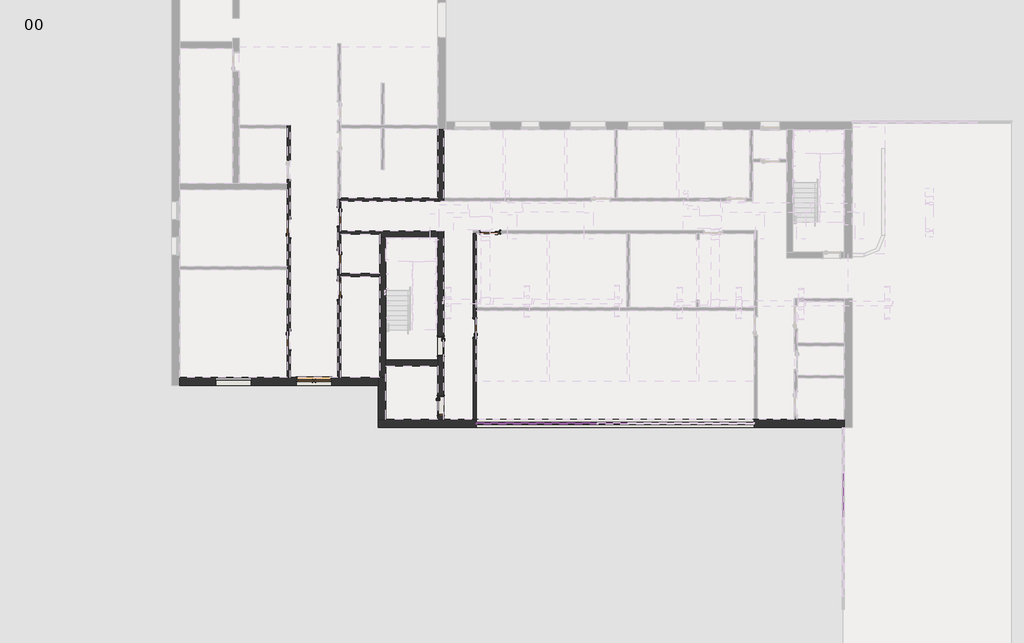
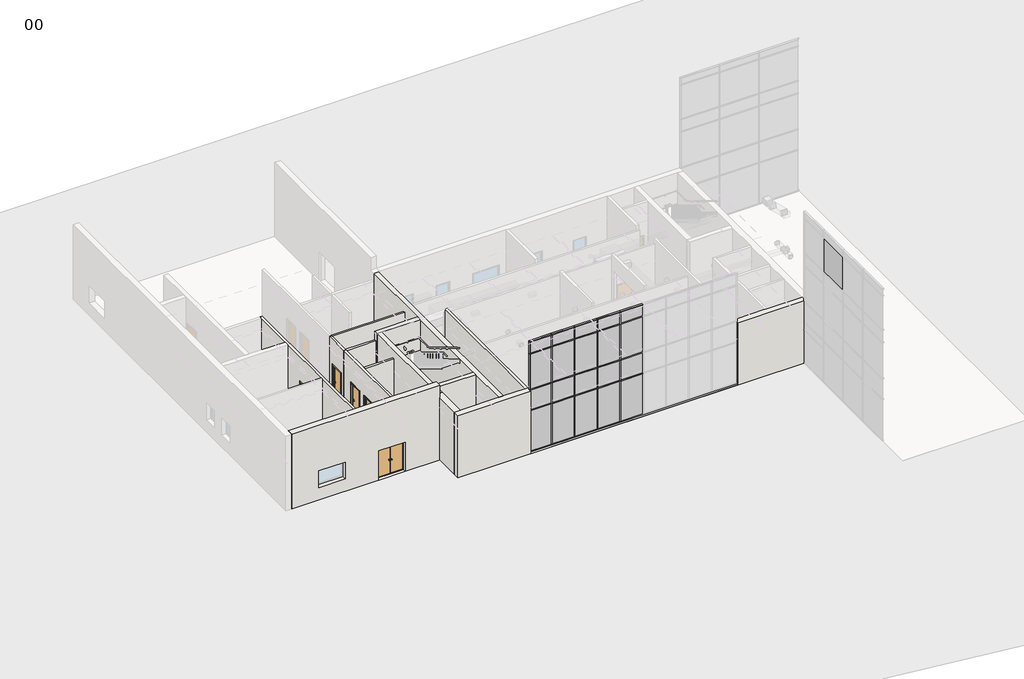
# One storey, part 2 of 12: 41 members, 21 plates, 14 walls, 10 doors.
"""IFC4 building model written with IfcOpenShell, lengths in millimetres."""

from ifc_helpers import new_model, si_unit, frame, origin, origin_with_axes, place, context, project, spatial, polyline, outline, extrude, faceted_brep, transform, mapped, element, save
from components import doors_intsgl_1_1010x2110mm_7920e6b8, doors_intsgl_1_1010x2110mm_12a6edaf, doors_intsgl_1_1010x2110mm_5517da8e, doors_intsgl_1_1010x2110mm_5eebe40c, doors_sco_extdbl_flush_1810x2110mm_3cdf6cdb, rectangular_mullion_curtainwallmullion_rectangular_generic_c971d07e, rectangular_mullion_curtainwallmullion_rectangular_generic_e6673756, rectangular_mullion_curtainwallmullion_rectangular_generic_63c9f2cf, rectangular_mullion_curtainwallmullion_rectangular_generic_d70bf6dd, rectangular_mullion_curtainwallmullion_rectangular_generic_654ac675, rectangular_mullion_curtainwallmullion_rectangular_generic_e7c47ca9, rectangular_mullion_curtainwallmullion_rectangular_generic_f3eef52e, rectangular_mullion_curtainwallmullion_rectangular_generic_c0600e94, rectangular_mullion_curtainwallmullion_rectangular_generic_0bcd7f07, rectangular_mullion_curtainwallmullion_rectangular_generic_3bdb59d8, rectangular_mullion_curtainwallmullion_rectangular_generic_0752d91b, rectangular_mullion_curtainwallmullion_rectangular_generic_141bc770, system_panel_curtainpanel_glazed_c42a0534, system_panel_curtainpanel_glazed_c680861d, system_panel_curtainpanel_glazed_7c054268, system_panel_curtainpanel_glazed_47e39832, system_panel_curtainpanel_glazed_d09689ee, system_panel_curtainpanel_solid_5b00d7df, system_panel_curtainpanel_solid_a154ba9f, system_panel_curtainpanel_solid_78233117, system_panel_curtainpanel_solid_a9b64b58

model = new_model("IFC4")

# Units and contexts
model_context = context("Model", 3, world=origin())
ifc_project = project(units=[si_unit("LENGTHUNIT", "METRE", prefix="MILLI")], contexts=[model_context])

# Site, building, storey
site = spatial("IfcSite", under=ifc_project)
building = spatial("IfcBuilding", under=site)
storey = spatial("IfcBuildingStorey", under=building, Name="00", Elevation=0.0)

# Doors
placement = place(None, origin())
doors_intsgl_1_1010x2110mm_shape = doors_intsgl_1_1010x2110mm_7920e6b8(model_context)
element("IfcDoor", 1, ObjectType="Doors_IntSgl_1 : 1010x2110mm", at=placement, inside=storey, context=model_context, shape_type="MappedRepresentation", body=[
    mapped(doors_intsgl_1_1010x2110mm_shape, transform((417435.3206883, -392289.0026386, 0.0), x_axis=(0.0, -1.0, 0.0), y_axis=(1.0, 0.0, 0.0), z_axis=(0.0, 0.0, 1.0))),
])
doors_intsgl_1_1010x2110mm_2_shape = doors_intsgl_1_1010x2110mm_12a6edaf(model_context)
element("IfcDoor", 2, ObjectType="Doors_IntSgl_1 : 1010x2110mm", at=placement, inside=storey, context=model_context, shape_type="MappedRepresentation", body=[
    mapped(doors_intsgl_1_1010x2110mm_2_shape, transform((417435.3206883, -386584.0026386, 0.0), x_axis=(0.0, 1.0, 0.0), y_axis=(-1.0, 0.0, 0.0), z_axis=(0.0, 0.0, 1.0))),
])
element("IfcDoor", 3, ObjectType="Doors_IntSgl_1 : 1010x2110mm", at=placement, inside=storey, context=model_context, shape_type="MappedRepresentation", body=[
    mapped(doors_intsgl_1_1010x2110mm_shape, transform((419987.3206883, -389744.0026386, 0.0), x_axis=(0.0, 1.0, 0.0), y_axis=(-1.0, 0.0, 0.0), z_axis=(0.0, 0.0, 1.0))),
])
element("IfcDoor", 4, ObjectType="Doors_IntSgl_1 : 1010x2110mm", at=placement, inside=storey, context=model_context, shape_type="MappedRepresentation", body=[
    mapped(doors_intsgl_1_1010x2110mm_shape, transform((426897.3206883, -391673.0026386, 0.0), x_axis=(0.0, 1.0, 0.0), y_axis=(-1.0, 0.0, 0.0), z_axis=(0.0, 0.0, 1.0))),
])
element("IfcDoor", 5, ObjectType="Doors_IntSgl_1 : 1010x2110mm", at=placement, inside=storey, context=model_context, shape_type="MappedRepresentation", body=[
    mapped(doors_intsgl_1_1010x2110mm_2_shape, transform((419987.3206883, -388184.0026386, 0.0), x_axis=(0.0, -1.0, 0.0), y_axis=(1.0, 0.0, 0.0), z_axis=(0.0, 0.0, 1.0))),
])
element("IfcDoor", 6, ObjectType="Doors_IntSgl_1 : 1010x2110mm", at=placement, inside=storey, context=model_context, shape_type="MappedRepresentation", body=[
    mapped(doors_intsgl_1_1010x2110mm_2_shape, transform((419987.3206883, -386006.5026386, 0.0), x_axis=(0.0, -1.0, 0.0), y_axis=(1.0, 0.0, 0.0), z_axis=(0.0, 0.0, 1.0))),
])
element("IfcDoor", 7, ObjectType="Doors_IntSgl_1 : 1010x2110mm", at=placement, inside=storey, context=model_context, shape_type="MappedRepresentation", body=[
    mapped(doors_intsgl_1_1010x2110mm_2_shape, transform((427677.3206883, -386774.0026386, 0.0), x_axis=(-1.0, 0.0, 0.0), y_axis=(0.0, -1.0, 0.0), z_axis=(0.0, 0.0, 1.0))),
])
doors_intsgl_1_1010x2110mm_3_shape = doors_intsgl_1_1010x2110mm_5517da8e(model_context)
element("IfcDoor", 8, ObjectType="Doors_IntSgl_1 : 1010x2110mm", at=placement, inside=storey, context=model_context, shape_type="MappedRepresentation", body=[
    mapped(doors_intsgl_1_1010x2110mm_3_shape, transform((425167.3206883, -392594.0026386, 0.0), x_axis=(0.0, -1.0, 0.0), y_axis=(1.0, 0.0, 0.0), z_axis=(0.0, 0.0, 1.0))),
])
doors_intsgl_1_1010x2110mm_4_shape = doors_intsgl_1_1010x2110mm_5eebe40c(model_context)
element("IfcDoor", 9, ObjectType="Doors_IntSgl_1 : 1010x2110mm", at=placement, inside=storey, context=model_context, shape_type="MappedRepresentation", body=[
    mapped(doors_intsgl_1_1010x2110mm_4_shape, transform((425167.3206883, -395623.0026386, 0.0), x_axis=(0.0, -1.0, 0.0), y_axis=(1.0, 0.0, 0.0), z_axis=(0.0, 0.0, 1.0))),
])
doors_sco_extdbl_flush_1810x2110mm_shape = doors_sco_extdbl_flush_1810x2110mm_3cdf6cdb(model_context)
element("IfcDoor", 10, ObjectType="Doors_SCO_ExtDbl_Flush : 1810x2110mm", at=placement, inside=storey, context=model_context, shape_type="MappedRepresentation", body=[
    mapped(doors_sco_extdbl_flush_1810x2110mm_shape, transform((418711.3206883, -394395.0026386, 0.0), x_axis=(1.0, 0.0, 0.0), y_axis=(0.0, 1.0, 0.0), z_axis=(0.0, 0.0, 1.0))),
])

# Members
rectangular_mullion_curtainwallmullion_rectangular_generic_shape = rectangular_mullion_curtainwallmullion_rectangular_generic_c971d07e(model_context)
element("IfcMember", 11, ObjectType="Rectangular Mullion : CurtainWallMullion_Rectangular_Generic", at=placement, inside=storey, context=model_context, shape_type="MappedRepresentation", body=[
    mapped(rectangular_mullion_curtainwallmullion_rectangular_generic_shape, transform((433166.7651328, -396529.0026386, 8000.0), x_axis=(0.0, 0.0, 1.0), y_axis=(0.0, 1.0, 0.0), z_axis=(-1.0, 0.0, 0.0))),
])
element("IfcMember", 12, ObjectType="Rectangular Mullion : CurtainWallMullion_Rectangular_Generic", at=placement, inside=storey, context=model_context, shape_type="MappedRepresentation", body=[
    mapped(rectangular_mullion_curtainwallmullion_rectangular_generic_shape, transform((431605.6540218, -396529.0026386, 8000.0), x_axis=(0.0, 0.0, 1.0), y_axis=(0.0, 1.0, 0.0), z_axis=(-1.0, 0.0, 0.0))),
])
element("IfcMember", 13, ObjectType="Rectangular Mullion : CurtainWallMullion_Rectangular_Generic", at=placement, inside=storey, context=model_context, shape_type="MappedRepresentation", body=[
    mapped(rectangular_mullion_curtainwallmullion_rectangular_generic_shape, transform((430044.5429107, -396529.0026386, 8000.0), x_axis=(0.0, 0.0, 1.0), y_axis=(0.0, 1.0, 0.0), z_axis=(-1.0, 0.0, 0.0))),
])
element("IfcMember", 14, ObjectType="Rectangular Mullion : CurtainWallMullion_Rectangular_Generic", at=placement, inside=storey, context=model_context, shape_type="MappedRepresentation", body=[
    mapped(rectangular_mullion_curtainwallmullion_rectangular_generic_shape, transform((428483.4317997, -396529.0026386, 8000.0), x_axis=(0.0, 0.0, 1.0), y_axis=(0.0, 1.0, 0.0), z_axis=(-1.0, 0.0, 0.0))),
])
element("IfcMember", 15, ObjectType="Rectangular Mullion : CurtainWallMullion_Rectangular_Generic", at=placement, inside=storey, context=model_context, shape_type="MappedRepresentation", body=[
    mapped(rectangular_mullion_curtainwallmullion_rectangular_generic_shape, transform((433166.7651328, -396529.0026386, 0.0), x_axis=(0.0, 0.0, -1.0), y_axis=(0.0, 1.0, 0.0), z_axis=(1.0, 0.0, 0.0))),
])
element("IfcMember", 16, ObjectType="Rectangular Mullion : CurtainWallMullion_Rectangular_Generic", at=placement, inside=storey, context=model_context, shape_type="MappedRepresentation", body=[
    mapped(rectangular_mullion_curtainwallmullion_rectangular_generic_shape, transform((431605.6540218, -396529.0026386, 0.0), x_axis=(0.0, 0.0, -1.0), y_axis=(0.0, 1.0, 0.0), z_axis=(1.0, 0.0, 0.0))),
])
element("IfcMember", 17, ObjectType="Rectangular Mullion : CurtainWallMullion_Rectangular_Generic", at=placement, inside=storey, context=model_context, shape_type="MappedRepresentation", body=[
    mapped(rectangular_mullion_curtainwallmullion_rectangular_generic_shape, transform((430044.5429107, -396529.0026386, 0.0), x_axis=(0.0, 0.0, -1.0), y_axis=(0.0, 1.0, 0.0), z_axis=(1.0, 0.0, 0.0))),
])
rectangular_mullion_curtainwallmullion_rectangular_generic_2_shape = rectangular_mullion_curtainwallmullion_rectangular_generic_e6673756(model_context)
element("IfcMember", 18, ObjectType="Rectangular Mullion : CurtainWallMullion_Rectangular_Generic", at=placement, inside=storey, context=model_context, shape_type="MappedRepresentation", body=[
    mapped(rectangular_mullion_curtainwallmullion_rectangular_generic_2_shape, transform((433191.7651328, -396529.0026386, 3000.0), x_axis=(0.0, 0.0, 1.0), y_axis=(0.0, 1.0, 0.0), z_axis=(-1.0, 0.0, 0.0))),
])
element("IfcMember", 19, ObjectType="Rectangular Mullion : CurtainWallMullion_Rectangular_Generic", at=placement, inside=storey, context=model_context, shape_type="MappedRepresentation", body=[
    mapped(rectangular_mullion_curtainwallmullion_rectangular_generic_2_shape, transform((431630.6540218, -396529.0026386, 3000.0), x_axis=(0.0, 0.0, 1.0), y_axis=(0.0, 1.0, 0.0), z_axis=(-1.0, 0.0, 0.0))),
])
element("IfcMember", 20, ObjectType="Rectangular Mullion : CurtainWallMullion_Rectangular_Generic", at=placement, inside=storey, context=model_context, shape_type="MappedRepresentation", body=[
    mapped(rectangular_mullion_curtainwallmullion_rectangular_generic_2_shape, transform((430069.5429107, -396529.0026386, 3000.0), x_axis=(0.0, 0.0, 1.0), y_axis=(0.0, 1.0, 0.0), z_axis=(-1.0, 0.0, 0.0))),
])
element("IfcMember", 21, ObjectType="Rectangular Mullion : CurtainWallMullion_Rectangular_Generic", at=placement, inside=storey, context=model_context, shape_type="MappedRepresentation", body=[
    mapped(rectangular_mullion_curtainwallmullion_rectangular_generic_2_shape, transform((428508.4317997, -396529.0026386, 3000.0), x_axis=(0.0, 0.0, 1.0), y_axis=(0.0, 1.0, 0.0), z_axis=(-1.0, 0.0, 0.0))),
])
element("IfcMember", 22, ObjectType="Rectangular Mullion : CurtainWallMullion_Rectangular_Generic", at=placement, inside=storey, context=model_context, shape_type="MappedRepresentation", body=[
    mapped(rectangular_mullion_curtainwallmullion_rectangular_generic_2_shape, transform((431630.6540218, -396529.0026386, 4500.0), x_axis=(0.0, 0.0, 1.0), y_axis=(0.0, 1.0, 0.0), z_axis=(-1.0, 0.0, 0.0))),
])
element("IfcMember", 23, ObjectType="Rectangular Mullion : CurtainWallMullion_Rectangular_Generic", at=placement, inside=storey, context=model_context, shape_type="MappedRepresentation", body=[
    mapped(rectangular_mullion_curtainwallmullion_rectangular_generic_2_shape, transform((430069.5429107, -396529.0026386, 4500.0), x_axis=(0.0, 0.0, 1.0), y_axis=(0.0, 1.0, 0.0), z_axis=(-1.0, 0.0, 0.0))),
])
element("IfcMember", 24, ObjectType="Rectangular Mullion : CurtainWallMullion_Rectangular_Generic", at=placement, inside=storey, context=model_context, shape_type="MappedRepresentation", body=[
    mapped(rectangular_mullion_curtainwallmullion_rectangular_generic_2_shape, transform((428508.4317997, -396529.0026386, 4500.0), x_axis=(0.0, 0.0, 1.0), y_axis=(0.0, 1.0, 0.0), z_axis=(-1.0, 0.0, 0.0))),
])
element("IfcMember", 25, ObjectType="Rectangular Mullion : CurtainWallMullion_Rectangular_Generic", at=placement, inside=storey, context=model_context, shape_type="MappedRepresentation", body=[
    mapped(rectangular_mullion_curtainwallmullion_rectangular_generic_2_shape, transform((431630.6540218, -396529.0026386, 7100.0), x_axis=(0.0, 0.0, 1.0), y_axis=(0.0, 1.0, 0.0), z_axis=(-1.0, 0.0, 0.0))),
])
element("IfcMember", 26, ObjectType="Rectangular Mullion : CurtainWallMullion_Rectangular_Generic", at=placement, inside=storey, context=model_context, shape_type="MappedRepresentation", body=[
    mapped(rectangular_mullion_curtainwallmullion_rectangular_generic_2_shape, transform((430069.5429107, -396529.0026386, 7100.0), x_axis=(0.0, 0.0, 1.0), y_axis=(0.0, 1.0, 0.0), z_axis=(-1.0, 0.0, 0.0))),
])
element("IfcMember", 27, ObjectType="Rectangular Mullion : CurtainWallMullion_Rectangular_Generic", at=placement, inside=storey, context=model_context, shape_type="MappedRepresentation", body=[
    mapped(rectangular_mullion_curtainwallmullion_rectangular_generic_2_shape, transform((428508.4317997, -396529.0026386, 7100.0), x_axis=(0.0, 0.0, 1.0), y_axis=(0.0, 1.0, 0.0), z_axis=(-1.0, 0.0, 0.0))),
])
rectangular_mullion_curtainwallmullion_rectangular_generic_3_shape = rectangular_mullion_curtainwallmullion_rectangular_generic_63c9f2cf(model_context)
element("IfcMember", 28, ObjectType="Rectangular Mullion : CurtainWallMullion_Rectangular_Generic", at=placement, inside=storey, context=model_context, shape_type="MappedRepresentation", body=[
    mapped(rectangular_mullion_curtainwallmullion_rectangular_generic_3_shape, transform((431605.6540218, -396529.0026386, 7100.0), x_axis=(-1.0, 0.0, 0.0), y_axis=(0.0, 1.0, 0.0), z_axis=(0.0, 0.0, -1.0))),
])
element("IfcMember", 29, ObjectType="Rectangular Mullion : CurtainWallMullion_Rectangular_Generic", at=placement, inside=storey, context=model_context, shape_type="MappedRepresentation", body=[
    mapped(rectangular_mullion_curtainwallmullion_rectangular_generic_3_shape, transform((430044.5429107, -396529.0026386, 7100.0), x_axis=(-1.0, 0.0, 0.0), y_axis=(0.0, 1.0, 0.0), z_axis=(0.0, 0.0, -1.0))),
])
element("IfcMember", 30, ObjectType="Rectangular Mullion : CurtainWallMullion_Rectangular_Generic", at=placement, inside=storey, context=model_context, shape_type="MappedRepresentation", body=[
    mapped(rectangular_mullion_curtainwallmullion_rectangular_generic_3_shape, transform((428483.4317997, -396529.0026386, 7100.0), x_axis=(-1.0, 0.0, 0.0), y_axis=(0.0, 1.0, 0.0), z_axis=(0.0, 0.0, -1.0))),
])
rectangular_mullion_curtainwallmullion_rectangular_generic_4_shape = rectangular_mullion_curtainwallmullion_rectangular_generic_d70bf6dd(model_context)
element("IfcMember", 31, ObjectType="Rectangular Mullion : CurtainWallMullion_Rectangular_Generic", at=placement, inside=storey, context=model_context, shape_type="MappedRepresentation", body=[
    mapped(rectangular_mullion_curtainwallmullion_rectangular_generic_4_shape, transform((426972.3206883, -396529.0026386, 7100.0), x_axis=(-1.0, 0.0, 0.0), y_axis=(0.0, 1.0, 0.0), z_axis=(0.0, 0.0, -1.0))),
])
rectangular_mullion_curtainwallmullion_rectangular_generic_5_shape = rectangular_mullion_curtainwallmullion_rectangular_generic_654ac675(model_context)
element("IfcMember", 32, ObjectType="Rectangular Mullion : CurtainWallMullion_Rectangular_Generic", at=placement, inside=storey, context=model_context, shape_type="MappedRepresentation", body=[
    mapped(rectangular_mullion_curtainwallmullion_rectangular_generic_5_shape, transform((433166.7651328, -396529.0026386, 4500.0), x_axis=(-1.0, 0.0, 0.0), y_axis=(0.0, 1.0, 0.0), z_axis=(0.0, 0.0, -1.0))),
])
element("IfcMember", 33, ObjectType="Rectangular Mullion : CurtainWallMullion_Rectangular_Generic", at=placement, inside=storey, context=model_context, shape_type="MappedRepresentation", body=[
    mapped(rectangular_mullion_curtainwallmullion_rectangular_generic_5_shape, transform((431605.6540218, -396529.0026386, 4500.0), x_axis=(-1.0, 0.0, 0.0), y_axis=(0.0, 1.0, 0.0), z_axis=(0.0, 0.0, -1.0))),
])
element("IfcMember", 34, ObjectType="Rectangular Mullion : CurtainWallMullion_Rectangular_Generic", at=placement, inside=storey, context=model_context, shape_type="MappedRepresentation", body=[
    mapped(rectangular_mullion_curtainwallmullion_rectangular_generic_5_shape, transform((430044.5429107, -396529.0026386, 4500.0), x_axis=(-1.0, 0.0, 0.0), y_axis=(0.0, 1.0, 0.0), z_axis=(0.0, 0.0, -1.0))),
])
element("IfcMember", 35, ObjectType="Rectangular Mullion : CurtainWallMullion_Rectangular_Generic", at=placement, inside=storey, context=model_context, shape_type="MappedRepresentation", body=[
    mapped(rectangular_mullion_curtainwallmullion_rectangular_generic_5_shape, transform((428483.4317997, -396529.0026386, 4500.0), x_axis=(-1.0, 0.0, 0.0), y_axis=(0.0, 1.0, 0.0), z_axis=(0.0, 0.0, -1.0))),
])
rectangular_mullion_curtainwallmullion_rectangular_generic_6_shape = rectangular_mullion_curtainwallmullion_rectangular_generic_e7c47ca9(model_context)
element("IfcMember", 36, ObjectType="Rectangular Mullion : CurtainWallMullion_Rectangular_Generic", at=placement, inside=storey, context=model_context, shape_type="MappedRepresentation", body=[
    mapped(rectangular_mullion_curtainwallmullion_rectangular_generic_6_shape, transform((426972.3206883, -396529.0026386, 4500.0), x_axis=(-1.0, 0.0, 0.0), y_axis=(0.0, 1.0, 0.0), z_axis=(0.0, 0.0, -1.0))),
])
rectangular_mullion_curtainwallmullion_rectangular_generic_7_shape = rectangular_mullion_curtainwallmullion_rectangular_generic_f3eef52e(model_context)
element("IfcMember", 37, ObjectType="Rectangular Mullion : CurtainWallMullion_Rectangular_Generic", at=placement, inside=storey, context=model_context, shape_type="MappedRepresentation", body=[
    mapped(rectangular_mullion_curtainwallmullion_rectangular_generic_7_shape, transform((433166.7651328, -396529.0026386, 50.0), x_axis=(-1.0, 0.0, 0.0), y_axis=(0.0, 1.0, 0.0), z_axis=(0.0, 0.0, -1.0))),
])
element("IfcMember", 38, ObjectType="Rectangular Mullion : CurtainWallMullion_Rectangular_Generic", at=placement, inside=storey, context=model_context, shape_type="MappedRepresentation", body=[
    mapped(rectangular_mullion_curtainwallmullion_rectangular_generic_7_shape, transform((431605.6540218, -396529.0026386, 50.0), x_axis=(-1.0, 0.0, 0.0), y_axis=(0.0, 1.0, 0.0), z_axis=(0.0, 0.0, -1.0))),
])
element("IfcMember", 39, ObjectType="Rectangular Mullion : CurtainWallMullion_Rectangular_Generic", at=placement, inside=storey, context=model_context, shape_type="MappedRepresentation", body=[
    mapped(rectangular_mullion_curtainwallmullion_rectangular_generic_7_shape, transform((430044.5429107, -396529.0026386, 50.0), x_axis=(-1.0, 0.0, 0.0), y_axis=(0.0, 1.0, 0.0), z_axis=(0.0, 0.0, -1.0))),
])
element("IfcMember", 40, ObjectType="Rectangular Mullion : CurtainWallMullion_Rectangular_Generic", at=placement, inside=storey, context=model_context, shape_type="MappedRepresentation", body=[
    mapped(rectangular_mullion_curtainwallmullion_rectangular_generic_7_shape, transform((428483.4317997, -396529.0026386, 50.0), x_axis=(-1.0, 0.0, 0.0), y_axis=(0.0, 1.0, 0.0), z_axis=(0.0, 0.0, -1.0))),
])
rectangular_mullion_curtainwallmullion_rectangular_generic_8_shape = rectangular_mullion_curtainwallmullion_rectangular_generic_c0600e94(model_context)
element("IfcMember", 41, ObjectType="Rectangular Mullion : CurtainWallMullion_Rectangular_Generic", at=placement, inside=storey, context=model_context, shape_type="MappedRepresentation", body=[
    mapped(rectangular_mullion_curtainwallmullion_rectangular_generic_8_shape, transform((433166.7651328, -396529.0026386, 3000.0), x_axis=(-1.0, 0.0, 0.0), y_axis=(0.0, 1.0, 0.0), z_axis=(0.0, 0.0, -1.0))),
])
element("IfcMember", 42, ObjectType="Rectangular Mullion : CurtainWallMullion_Rectangular_Generic", at=placement, inside=storey, context=model_context, shape_type="MappedRepresentation", body=[
    mapped(rectangular_mullion_curtainwallmullion_rectangular_generic_8_shape, transform((431605.6540218, -396529.0026386, 3000.0), x_axis=(-1.0, 0.0, 0.0), y_axis=(0.0, 1.0, 0.0), z_axis=(0.0, 0.0, -1.0))),
])
element("IfcMember", 43, ObjectType="Rectangular Mullion : CurtainWallMullion_Rectangular_Generic", at=placement, inside=storey, context=model_context, shape_type="MappedRepresentation", body=[
    mapped(rectangular_mullion_curtainwallmullion_rectangular_generic_8_shape, transform((430044.5429107, -396529.0026386, 3000.0), x_axis=(-1.0, 0.0, 0.0), y_axis=(0.0, 1.0, 0.0), z_axis=(0.0, 0.0, -1.0))),
])
element("IfcMember", 44, ObjectType="Rectangular Mullion : CurtainWallMullion_Rectangular_Generic", at=placement, inside=storey, context=model_context, shape_type="MappedRepresentation", body=[
    mapped(rectangular_mullion_curtainwallmullion_rectangular_generic_8_shape, transform((428483.4317997, -396529.0026386, 3000.0), x_axis=(-1.0, 0.0, 0.0), y_axis=(0.0, 1.0, 0.0), z_axis=(0.0, 0.0, -1.0))),
])
rectangular_mullion_curtainwallmullion_rectangular_generic_9_shape = rectangular_mullion_curtainwallmullion_rectangular_generic_0bcd7f07(model_context)
element("IfcMember", 45, ObjectType="Rectangular Mullion : CurtainWallMullion_Rectangular_Generic", at=placement, inside=storey, context=model_context, shape_type="MappedRepresentation", body=[
    mapped(rectangular_mullion_curtainwallmullion_rectangular_generic_9_shape, transform((426972.3206883, -396529.0026386, 50.0), x_axis=(-1.0, 0.0, 0.0), y_axis=(0.0, 1.0, 0.0), z_axis=(0.0, 0.0, -1.0))),
])
rectangular_mullion_curtainwallmullion_rectangular_generic_10_shape = rectangular_mullion_curtainwallmullion_rectangular_generic_3bdb59d8(model_context)
element("IfcMember", 46, ObjectType="Rectangular Mullion : CurtainWallMullion_Rectangular_Generic", at=placement, inside=storey, context=model_context, shape_type="MappedRepresentation", body=[
    mapped(rectangular_mullion_curtainwallmullion_rectangular_generic_10_shape, transform((426972.3206883, -396529.0026386, 3000.0), x_axis=(-1.0, 0.0, 0.0), y_axis=(0.0, 1.0, 0.0), z_axis=(0.0, 0.0, -1.0))),
])
rectangular_mullion_curtainwallmullion_rectangular_generic_11_shape = rectangular_mullion_curtainwallmullion_rectangular_generic_0752d91b(model_context)
element("IfcMember", 47, ObjectType="Rectangular Mullion : CurtainWallMullion_Rectangular_Generic", at=placement, inside=storey, context=model_context, shape_type="MappedRepresentation", body=[
    mapped(rectangular_mullion_curtainwallmullion_rectangular_generic_11_shape, transform((426972.3206883, -396529.0026386, 8000.0), x_axis=(0.0, 0.0, 1.0), y_axis=(0.0, 1.0, 0.0), z_axis=(-1.0, 0.0, 0.0))),
])
element("IfcMember", 48, ObjectType="Rectangular Mullion : CurtainWallMullion_Rectangular_Generic", at=placement, inside=storey, context=model_context, shape_type="MappedRepresentation", body=[
    mapped(rectangular_mullion_curtainwallmullion_rectangular_generic_11_shape, transform((428483.4317997, -396529.0026386, 0.0), x_axis=(0.0, 0.0, -1.0), y_axis=(0.0, 1.0, 0.0), z_axis=(1.0, 0.0, 0.0))),
])
rectangular_mullion_curtainwallmullion_rectangular_generic_12_shape = rectangular_mullion_curtainwallmullion_rectangular_generic_141bc770(model_context)
element("IfcMember", 49, ObjectType="Rectangular Mullion : CurtainWallMullion_Rectangular_Generic", at=placement, inside=storey, context=model_context, shape_type="MappedRepresentation", body=[
    mapped(rectangular_mullion_curtainwallmullion_rectangular_generic_12_shape, transform((427022.3206883, -396529.0026386, 3000.0), x_axis=(0.0, 0.0, 1.0), y_axis=(0.0, 1.0, 0.0), z_axis=(-1.0, 0.0, 0.0))),
])
element("IfcMember", 50, ObjectType="Rectangular Mullion : CurtainWallMullion_Rectangular_Generic", at=placement, inside=storey, context=model_context, shape_type="MappedRepresentation", body=[
    mapped(rectangular_mullion_curtainwallmullion_rectangular_generic_12_shape, transform((427022.3206883, -396529.0026386, 4500.0), x_axis=(0.0, 0.0, 1.0), y_axis=(0.0, 1.0, 0.0), z_axis=(-1.0, 0.0, 0.0))),
])
element("IfcMember", 51, ObjectType="Rectangular Mullion : CurtainWallMullion_Rectangular_Generic", at=placement, inside=storey, context=model_context, shape_type="MappedRepresentation", body=[
    mapped(rectangular_mullion_curtainwallmullion_rectangular_generic_12_shape, transform((427022.3206883, -396529.0026386, 7100.0), x_axis=(0.0, 0.0, 1.0), y_axis=(0.0, 1.0, 0.0), z_axis=(-1.0, 0.0, 0.0))),
])

# Plates
system_panel_curtainpanel_glazed_shape = system_panel_curtainpanel_glazed_c42a0534(model_context)
element("IfcPlate", 52, ObjectType="System Panel : CurtainPanel_Glazed", at=placement, inside=storey, context=model_context, shape_type="MappedRepresentation", body=[
    mapped(system_panel_curtainpanel_glazed_shape, transform((445668.3206883, -400195.8026387, 8025.0), x_axis=(0.0, 1.0, 0.0), y_axis=(-1.0, 0.0, 0.0), z_axis=(0.0, 0.0, 1.0))),
])
system_panel_curtainpanel_glazed_2_shape = system_panel_curtainpanel_glazed_c680861d(model_context)
element("IfcPlate", 53, ObjectType="System Panel : CurtainPanel_Glazed", at=placement, inside=storey, context=model_context, shape_type="MappedRepresentation", body=[
    mapped(system_panel_curtainpanel_glazed_2_shape, transform((433947.3206883, -396529.0026386, 4525.0), x_axis=(-1.0, 0.0, 0.0), y_axis=(0.0, -1.0, 0.0), z_axis=(0.0, 0.0, 1.0))),
])
element("IfcPlate", 54, ObjectType="System Panel : CurtainPanel_Glazed", at=placement, inside=storey, context=model_context, shape_type="MappedRepresentation", body=[
    mapped(system_panel_curtainpanel_glazed_2_shape, transform((432386.2095773, -396529.0026386, 4525.0), x_axis=(-1.0, 0.0, 0.0), y_axis=(0.0, -1.0, 0.0), z_axis=(0.0, 0.0, 1.0))),
])
element("IfcPlate", 55, ObjectType="System Panel : CurtainPanel_Glazed", at=placement, inside=storey, context=model_context, shape_type="MappedRepresentation", body=[
    mapped(system_panel_curtainpanel_glazed_2_shape, transform((430825.0984662, -396529.0026386, 4525.0), x_axis=(-1.0, 0.0, 0.0), y_axis=(0.0, -1.0, 0.0), z_axis=(0.0, 0.0, 1.0))),
])
element("IfcPlate", 56, ObjectType="System Panel : CurtainPanel_Glazed", at=placement, inside=storey, context=model_context, shape_type="MappedRepresentation", body=[
    mapped(system_panel_curtainpanel_glazed_2_shape, transform((429263.9873552, -396529.0026386, 4525.0), x_axis=(-1.0, 0.0, 0.0), y_axis=(0.0, -1.0, 0.0), z_axis=(0.0, 0.0, 1.0))),
])
system_panel_curtainpanel_glazed_3_shape = system_panel_curtainpanel_glazed_7c054268(model_context)
element("IfcPlate", 57, ObjectType="System Panel : CurtainPanel_Glazed", at=placement, inside=storey, context=model_context, shape_type="MappedRepresentation", body=[
    mapped(system_panel_curtainpanel_glazed_3_shape, transform((433947.3206883, -396529.0026386, 50.0), x_axis=(-1.0, 0.0, 0.0), y_axis=(0.0, -1.0, 0.0), z_axis=(0.0, 0.0, 1.0))),
])
element("IfcPlate", 58, ObjectType="System Panel : CurtainPanel_Glazed", at=placement, inside=storey, context=model_context, shape_type="MappedRepresentation", body=[
    mapped(system_panel_curtainpanel_glazed_3_shape, transform((432386.2095773, -396529.0026386, 50.0), x_axis=(-1.0, 0.0, 0.0), y_axis=(0.0, -1.0, 0.0), z_axis=(0.0, 0.0, 1.0))),
])
element("IfcPlate", 59, ObjectType="System Panel : CurtainPanel_Glazed", at=placement, inside=storey, context=model_context, shape_type="MappedRepresentation", body=[
    mapped(system_panel_curtainpanel_glazed_3_shape, transform((430825.0984662, -396529.0026386, 50.0), x_axis=(-1.0, 0.0, 0.0), y_axis=(0.0, -1.0, 0.0), z_axis=(0.0, 0.0, 1.0))),
])
element("IfcPlate", 60, ObjectType="System Panel : CurtainPanel_Glazed", at=placement, inside=storey, context=model_context, shape_type="MappedRepresentation", body=[
    mapped(system_panel_curtainpanel_glazed_3_shape, transform((429263.9873552, -396529.0026386, 50.0), x_axis=(-1.0, 0.0, 0.0), y_axis=(0.0, -1.0, 0.0), z_axis=(0.0, 0.0, 1.0))),
])
system_panel_curtainpanel_glazed_4_shape = system_panel_curtainpanel_glazed_47e39832(model_context)
element("IfcPlate", 61, ObjectType="System Panel : CurtainPanel_Glazed", at=placement, inside=storey, context=model_context, shape_type="MappedRepresentation", body=[
    mapped(system_panel_curtainpanel_glazed_4_shape, transform((427740.376244, -396529.0026386, 50.0), x_axis=(-1.0, 0.0, 0.0), y_axis=(0.0, -1.0, 0.0), z_axis=(0.0, 0.0, 1.0))),
])
system_panel_curtainpanel_glazed_5_shape = system_panel_curtainpanel_glazed_d09689ee(model_context)
element("IfcPlate", 62, ObjectType="System Panel : CurtainPanel_Glazed", at=placement, inside=storey, context=model_context, shape_type="MappedRepresentation", body=[
    mapped(system_panel_curtainpanel_glazed_5_shape, transform((427740.376244, -396529.0026386, 4525.0), x_axis=(-1.0, 0.0, 0.0), y_axis=(0.0, -1.0, 0.0), z_axis=(0.0, 0.0, 1.0))),
])
system_panel_curtainpanel_solid_shape = system_panel_curtainpanel_solid_5b00d7df(model_context)
element("IfcPlate", 63, ObjectType="System Panel : CurtainPanel_Solid", at=placement, inside=storey, context=model_context, shape_type="MappedRepresentation", body=[
    mapped(system_panel_curtainpanel_solid_shape, transform((433947.3206883, -396529.0026386, 7125.0), x_axis=(-1.0, 0.0, 0.0), y_axis=(0.0, -1.0, 0.0), z_axis=(0.0, 0.0, 1.0))),
])
element("IfcPlate", 64, ObjectType="System Panel : CurtainPanel_Solid", at=placement, inside=storey, context=model_context, shape_type="MappedRepresentation", body=[
    mapped(system_panel_curtainpanel_solid_shape, transform((432386.2095773, -396529.0026386, 7125.0), x_axis=(-1.0, 0.0, 0.0), y_axis=(0.0, -1.0, 0.0), z_axis=(0.0, 0.0, 1.0))),
])
element("IfcPlate", 65, ObjectType="System Panel : CurtainPanel_Solid", at=placement, inside=storey, context=model_context, shape_type="MappedRepresentation", body=[
    mapped(system_panel_curtainpanel_solid_shape, transform((430825.0984662, -396529.0026386, 7125.0), x_axis=(-1.0, 0.0, 0.0), y_axis=(0.0, -1.0, 0.0), z_axis=(0.0, 0.0, 1.0))),
])
element("IfcPlate", 66, ObjectType="System Panel : CurtainPanel_Solid", at=placement, inside=storey, context=model_context, shape_type="MappedRepresentation", body=[
    mapped(system_panel_curtainpanel_solid_shape, transform((429263.9873552, -396529.0026386, 7125.0), x_axis=(-1.0, 0.0, 0.0), y_axis=(0.0, -1.0, 0.0), z_axis=(0.0, 0.0, 1.0))),
])
system_panel_curtainpanel_solid_2_shape = system_panel_curtainpanel_solid_a154ba9f(model_context)
element("IfcPlate", 67, ObjectType="System Panel : CurtainPanel_Solid", at=placement, inside=storey, context=model_context, shape_type="MappedRepresentation", body=[
    mapped(system_panel_curtainpanel_solid_2_shape, transform((433947.3206883, -396529.0026386, 3025.0), x_axis=(-1.0, 0.0, 0.0), y_axis=(0.0, -1.0, 0.0), z_axis=(0.0, 0.0, 1.0))),
])
element("IfcPlate", 68, ObjectType="System Panel : CurtainPanel_Solid", at=placement, inside=storey, context=model_context, shape_type="MappedRepresentation", body=[
    mapped(system_panel_curtainpanel_solid_2_shape, transform((432386.2095773, -396529.0026386, 3025.0), x_axis=(-1.0, 0.0, 0.0), y_axis=(0.0, -1.0, 0.0), z_axis=(0.0, 0.0, 1.0))),
])
element("IfcPlate", 69, ObjectType="System Panel : CurtainPanel_Solid", at=placement, inside=storey, context=model_context, shape_type="MappedRepresentation", body=[
    mapped(system_panel_curtainpanel_solid_2_shape, transform((430825.0984662, -396529.0026386, 3025.0), x_axis=(-1.0, 0.0, 0.0), y_axis=(0.0, -1.0, 0.0), z_axis=(0.0, 0.0, 1.0))),
])
element("IfcPlate", 70, ObjectType="System Panel : CurtainPanel_Solid", at=placement, inside=storey, context=model_context, shape_type="MappedRepresentation", body=[
    mapped(system_panel_curtainpanel_solid_2_shape, transform((429263.9873552, -396529.0026386, 3025.0), x_axis=(-1.0, 0.0, 0.0), y_axis=(0.0, -1.0, 0.0), z_axis=(0.0, 0.0, 1.0))),
])
system_panel_curtainpanel_solid_3_shape = system_panel_curtainpanel_solid_78233117(model_context)
element("IfcPlate", 71, ObjectType="System Panel : CurtainPanel_Solid", at=placement, inside=storey, context=model_context, shape_type="MappedRepresentation", body=[
    mapped(system_panel_curtainpanel_solid_3_shape, transform((427740.376244, -396529.0026386, 3025.0), x_axis=(-1.0, 0.0, 0.0), y_axis=(0.0, -1.0, 0.0), z_axis=(0.0, 0.0, 1.0))),
])
system_panel_curtainpanel_solid_4_shape = system_panel_curtainpanel_solid_a9b64b58(model_context)
element("IfcPlate", 72, ObjectType="System Panel : CurtainPanel_Solid", at=placement, inside=storey, context=model_context, shape_type="MappedRepresentation", body=[
    mapped(system_panel_curtainpanel_solid_4_shape, transform((427740.376244, -396529.0026386, 7125.0), x_axis=(-1.0, 0.0, 0.0), y_axis=(0.0, -1.0, 0.0), z_axis=(0.0, 0.0, 1.0))),
])

# Walls
element("IfcWall", 73, ObjectType="Wall_Exterior_WSUK", at=placement, inside=storey, context=model_context, shape_type="Brep", body=[
    faceted_brep([(445738.3206883, -396328.0026386, -1000.0), (425322.3206883, -396328.0026386, -1000.0), (425012.3206883, -396328.0026386, -1000.0), (422376.3206883, -396328.0026386, -1000.0), (421974.3206883, -396328.0026386, -1000.0), (421974.3206883, -396328.0026386, 4500.0), (422376.3206883, -396328.0026386, 4500.0), (425012.3206883, -396328.0026386, 4500.0), (425322.3206883, -396328.0026386, 4500.0), (426822.3206883, -396328.0026386, 4500.0), (426972.3206883, -396328.0026386, 4500.0), (426972.3206883, -396328.0026386, 0.0), (441142.3206883, -396328.0026386, 0.0), (441142.3206883, -396328.0026386, 4500.0), (441292.3206883, -396328.0026386, 4500.0), (443188.3206883, -396328.0026386, 4500.0), (443338.3206883, -396328.0026386, 4500.0), (445738.3206883, -396328.0026386, 4500.0), (421974.3206883, -396730.0026386, -1000.0), (445738.3206883, -396730.0026386, -1000.0), (445738.3206883, -396730.0026386, 4500.0), (441142.3206883, -396730.0026386, 4500.0), (441142.3206883, -396730.0026386, 0.0), (426972.3206883, -396730.0026386, 0.0), (426972.3206883, -396730.0026386, 4500.0), (421974.3206883, -396730.0026386, 4500.0)], [[[0, 1, 2, 3, 4, 5, 6, 7, 8, 9, 10, 11, 12, 13, 14, 15, 16, 17]], [[18, 19, 20, 21, 22, 23, 24, 25]], [[4, 3, 2, 1, 0, 19, 18]], [[5, 25, 24, 10, 9, 8, 7, 6]], [[20, 17, 16, 15, 14, 13, 21]], [[5, 4, 18, 25]], [[17, 20, 19, 0]], [[12, 22, 21, 13]], [[23, 11, 10, 24]], [[22, 12, 11, 23]]]),
])
element("IfcWall", 74, ObjectType="Wall_Exterior_WSUK", at=placement, inside=storey, context=model_context, shape_type="Brep", body=[
    faceted_brep([(422376.3206883, -396328.0026386, -1000.0), (422376.3206883, -394194.0026386, -1000.0), (422376.3206883, -394194.0026386, 4500.0), (422376.3206883, -396328.0026386, 4500.0), (421974.3206883, -396328.0026386, -1000.0), (421974.3206883, -396328.0026386, 4500.0), (421974.3206883, -394194.0026386, 4500.0), (421974.3206883, -394194.0026386, -1000.0), (421974.3206883, -394596.0026386, -1000.0), (422066.3206883, -394194.0026386, -1000.0), (422066.3206883, -394194.0026386, 4500.0)], [[[0, 1, 2, 3]], [[4, 5, 6, 7, 8]], [[1, 0, 4, 8, 7, 9]], [[3, 2, 10, 6, 5]], [[0, 3, 5, 4]], [[2, 1, 9, 7, 6, 10]]]),
])
element("IfcWall", 75, ObjectType="Wall_Exterior_WSUK", at=placement, inside=storey, context=model_context, shape_type="Brep", body=[
    faceted_brep([(421974.3206883, -394194.0026386, -1000.0), (411860.3206883, -394194.0026386, -1000.0), (411860.3206883, -394194.0026386, 5400.0), (421974.3206883, -394194.0026386, 5400.0), (421974.3206883, -394194.0026386, 4500.0), (417831.3206883, -394194.0026386, 0.0), (419591.3206883, -394194.0026386, 0.0), (419591.3206883, -394194.0026386, 2110.0), (417831.3206883, -394194.0026386, 2110.0), (413705.3206883, -394194.0026386, 2110.0), (413705.3206883, -394194.0026386, 900.0), (415515.3206883, -394194.0026386, 900.0), (415515.3206883, -394194.0026386, 2110.0), (411860.3206883, -394596.0026386, -1000.0), (421974.3206883, -394596.0026386, -1000.0), (421974.3206883, -394596.0026386, 5400.0), (411860.3206883, -394596.0026386, 5400.0), (419616.3206883, -394596.0026386, 2110.0), (419616.3206883, -394596.0026386, 0.0), (417806.3206883, -394596.0026386, 0.0), (417806.3206883, -394596.0026386, 2110.0), (413705.3206883, -394596.0026386, 2110.0), (415515.3206883, -394596.0026386, 2110.0), (415515.3206883, -394596.0026386, 900.0), (413705.3206883, -394596.0026386, 900.0), (417806.3206883, -394296.5026386, 2110.0), (417806.3206883, -394296.5026386, 0.0), (417831.3206883, -394296.5026386, 0.0), (417831.3206883, -394296.5026386, 2110.0), (419616.3206883, -394296.5026386, 0.0), (419616.3206883, -394296.5026386, 2110.0), (419591.3206883, -394296.5026386, 2110.0), (419591.3206883, -394296.5026386, 0.0)], [[[0, 1, 2, 3, 4], [5, 6, 7, 8], [9, 10, 11, 12]], [[13, 14, 15, 16], [17, 18, 19, 20], [21, 22, 23, 24]], [[1, 0, 14, 13]], [[3, 2, 16, 15]], [[25, 26, 27, 28]], [[29, 30, 31, 32]], [[30, 29, 18, 17]], [[27, 26, 19, 18, 29, 32, 6, 5]], [[26, 25, 20, 19]], [[25, 28, 8, 7, 31, 30, 17, 20]], [[28, 27, 5, 8]], [[32, 31, 7, 6]], [[10, 9, 21, 24]], [[11, 10, 24, 23]], [[12, 11, 23, 22]], [[9, 12, 22, 21]], [[14, 0, 4, 3, 15]], [[2, 1, 13, 16]]]),
])
element("IfcWall", 76, ObjectType="Wall_Exterior_WSUK 2hr", at=placement, inside=storey, context=model_context, shape_type="Brep", body=[
    faceted_brep([(425012.3206883, -381550.0026386, -1000.0), (425012.3206883, -386739.0026386, -1000.0), (425012.3206883, -387049.0026386, -1000.0), (425012.3206883, -393299.0026386, -1000.0), (425012.3206883, -393609.0026386, -1000.0), (425012.3206883, -396328.0026386, -1000.0), (425012.3206883, -396328.0026386, 4500.0), (425012.3206883, -393609.0026386, 4500.0), (425012.3206883, -393299.0026386, 4500.0), (425012.3206883, -387049.0026386, 4500.0), (425012.3206883, -386739.0026386, 4500.0), (425012.3206883, -381550.0026386, 4500.0), (425012.3206883, -396128.0026386, 2110.0), (425012.3206883, -396128.0026386, 0.0), (425012.3206883, -395118.0026386, 0.0), (425012.3206883, -395118.0026386, 2110.0), (425012.3206883, -385199.0026386, 3019.2), (425012.3206883, -386739.0026386, 3019.2), (425012.3206883, -386739.0026386, -100.0), (425012.3206883, -385199.0026386, -100.0), (425012.3206883, -385199.0026386, 0.0), (425012.3206883, -393099.0026386, 2110.0), (425012.3206883, -393099.0026386, 0.0), (425012.3206883, -392089.0026386, 0.0), (425012.3206883, -392089.0026386, 2110.0), (425322.3206883, -396328.0026386, -1000.0), (425322.3206883, -381550.0026386, -1000.0), (425322.3206883, -381550.0026386, 4500.0), (425322.3206883, -386848.0026386, 4500.0), (425322.3206883, -396328.0026386, 4500.0), (425322.3206883, -396128.0026386, 0.0), (425322.3206883, -396128.0026386, 2110.0), (425322.3206883, -395118.0026386, 2110.0), (425322.3206883, -395118.0026386, 0.0), (425322.3206883, -386739.0026386, 3019.2), (425322.3206883, -385199.0026386, 3019.2), (425322.3206883, -385199.0026386, 0.0), (425322.3206883, -385199.0026386, -100.0), (425322.3206883, -386739.0026386, -100.0), (425322.3206883, -393099.0026386, 0.0), (425322.3206883, -393099.0026386, 2110.0), (425322.3206883, -392089.0026386, 2110.0), (425322.3206883, -392089.0026386, 0.0)], [[[0, 1, 2, 3, 4, 5, 6, 7, 8, 9, 10, 11], [12, 13, 14, 15], [16, 17, 18, 19, 20], [21, 22, 23, 24]], [[25, 26, 27, 28, 29], [30, 31, 32, 33], [34, 35, 36, 37, 38], [39, 40, 41, 42]], [[5, 4, 3, 2, 1, 0, 26, 25]], [[11, 10, 9, 8, 7, 6, 29, 28, 27]], [[6, 5, 25, 29]], [[30, 13, 12, 31]], [[31, 12, 15, 32]], [[32, 15, 14, 33]], [[13, 30, 33, 14]], [[17, 16, 35, 34]], [[19, 18, 38, 37]], [[17, 34, 38, 18]], [[35, 16, 20, 19, 37, 36]], [[39, 22, 21, 40]], [[40, 21, 24, 41]], [[23, 42, 41, 24]], [[22, 39, 42, 23]], [[26, 0, 11, 27]]]),
])
element("IfcWall", 77, ObjectType="Wall_Exterior_WSUK 2hr", at=placement, inside=storey, context=model_context, shape_type="Brep", body=[
    faceted_brep([(425012.3206883, -386739.0026386, -1000.0), (422066.3206883, -386739.0026386, -1000.0), (422066.3206883, -386739.0026386, 0.0), (422066.3206883, -386739.0026386, 3900.0), (422066.3206883, -386739.0026386, 4500.0), (425012.3206883, -386739.0026386, 4500.0), (425012.3206883, -386739.0026386, 3019.2), (425012.3206883, -386739.0026386, -100.0), (425012.3206883, -387049.0026386, -1000.0), (425012.3206883, -387049.0026386, 4500.0), (422376.3206883, -387049.0026386, 4500.0), (422066.3206883, -387049.0026386, 4500.0), (422066.3206883, -387049.0026386, -1000.0), (422376.3206883, -387049.0026386, -1000.0)], [[[0, 1, 2, 3, 4, 5, 6, 7]], [[8, 9, 10, 11, 12, 13]], [[1, 0, 8, 13, 12]], [[5, 4, 11, 10, 9]], [[0, 7, 6, 5, 9, 8]], [[1, 12, 11, 4, 3, 2]]]),
])
element("IfcWall", 78, ObjectType="Wall_Exterior_WSUK 2hr", at=placement, inside=storey, context=model_context, shape_type="Brep", body=[
    faceted_brep([(422066.3206883, -387049.0026386, 4500.0), (422066.3206883, -387049.0026386, -1000.0), (422066.3206883, -394194.0026386, -1000.0), (422066.3206883, -394194.0026386, 4500.0), (422376.3206883, -387049.0026386, -1000.0), (422376.3206883, -387049.0026386, 4500.0), (422376.3206883, -393299.0026386, 4500.0), (422376.3206883, -393609.0026386, 4500.0), (422376.3206883, -394194.0026386, 4500.0), (422376.3206883, -394194.0026386, -1000.0), (422376.3206883, -393609.0026386, -1000.0), (422376.3206883, -393299.0026386, -1000.0)], [[[0, 1, 2, 3]], [[4, 5, 6, 7, 8, 9, 10, 11]], [[2, 1, 4, 11, 10, 9]], [[0, 3, 8, 7, 6, 5]], [[3, 2, 9, 8]], [[0, 5, 4, 1]]]),
])
element("IfcWall", 79, ObjectType="Wall_Interior_WSUK", at=placement, inside=storey, context=model_context, shape_type="Brep", body=[
    faceted_brep([(426972.3206883, -386849.0026386, 4500.0), (426972.3206883, -396328.0026386, 4500.0), (426972.3206883, -396328.0026386, 0.0), (426972.3206883, -392178.0026386, 0.0), (426972.3206883, -392178.0026386, 2110.0), (426972.3206883, -391168.0026386, 2110.0), (426972.3206883, -391168.0026386, 0.0), (426972.3206883, -390768.0026386, 0.0), (426972.3206883, -390618.0026386, 0.0), (426972.3206883, -386849.0026386, 0.0), (426822.3206883, -396328.0026386, 4500.0), (426822.3206883, -386849.0026386, 4500.0), (426822.3206883, -386849.0026386, 4200.0), (426822.3206883, -386849.0026386, 0.0), (426822.3206883, -391168.0026386, 0.0), (426822.3206883, -391168.0026386, 2110.0), (426822.3206883, -392178.0026386, 2110.0), (426822.3206883, -392178.0026386, 0.0), (426822.3206883, -396328.0026386, 0.0)], [[[0, 1, 2, 3, 4, 5, 6, 7, 8, 9]], [[10, 11, 12, 13, 14, 15, 16, 17, 18]], [[13, 9, 8, 7, 6, 14]], [[2, 18, 17, 3]], [[1, 0, 11, 10]], [[0, 9, 13, 12, 11]], [[2, 1, 10, 18]], [[5, 15, 14, 6]], [[15, 5, 4, 16]], [[16, 4, 3, 17]]]),
])
element("IfcWall", 80, ObjectType="Wall_Exterior_WSUK 2hr", at=placement, inside=storey, context=model_context, shape_type="SweptSolid", body=[
    extrude(outline(polyline([(422376.3206883, -393299.0026386), (425012.3206883, -393299.0026386), (425012.3206883, -393609.0026386), (422376.3206883, -393609.0026386), (422376.3206883, -393299.0026386)])), frame((0.0, 0.0, -1000.0), z_axis=(0.0, 0.0, 1.0), x_axis=(1.0, 0.0, 0.0)), (0.0, 0.0, 1.0), 5500.0),
])
element("IfcWall", 81, ObjectType="Wall_Interior_WSUK", at=placement, inside=storey, context=model_context, shape_type="Brep", body=[
    faceted_brep([(425012.3206883, -385049.0026386, 0.0), (420062.3206883, -385049.0026386, 0.0), (420062.3206883, -385049.0026386, 3900.0), (425012.3206883, -385049.0026386, 3900.0), (425012.3206883, -385199.0026386, 0.0), (425012.3206883, -385199.0026386, 3019.2), (425012.3206883, -385199.0026386, 3900.0), (420062.3206883, -385199.0026386, 3900.0), (420062.3206883, -385199.0026386, 0.0), (420062.3206883, -385124.0026386, 0.0), (420062.3206883, -385124.0026386, 3900.0)], [[[0, 1, 2, 3]], [[4, 5, 6, 7, 8]], [[1, 0, 4, 8, 9]], [[3, 2, 10, 7, 6]], [[0, 3, 6, 5, 4]], [[2, 1, 9, 8, 7, 10]]]),
])
element("IfcWall", 82, ObjectType="Wall_Interior_WSUK", at=placement, inside=storey, context=model_context, shape_type="Brep", body=[
    faceted_brep([(417510.3206883, -381320.0026386, 3900.0), (417510.3206883, -394194.0026386, 3900.0), (417510.3206883, -394194.0026386, 0.0), (417510.3206883, -392794.0026386, 0.0), (417510.3206883, -392794.0026386, 2110.0), (417510.3206883, -391784.0026386, 2110.0), (417510.3206883, -391784.0026386, 0.0), (417510.3206883, -387089.0026386, 0.0), (417510.3206883, -387089.0026386, 2110.0), (417510.3206883, -386079.0026386, 2110.0), (417510.3206883, -386079.0026386, 0.0), (417510.3206883, -384114.0026386, 0.0), (417510.3206883, -384114.0026386, 2110.0), (417510.3206883, -383104.0026386, 2110.0), (417510.3206883, -383104.0026386, 0.0), (417510.3206883, -381320.0026386, 0.0), (417360.3206883, -394194.0026386, 3900.0), (417360.3206883, -388694.0026386, 3900.0), (417360.3206883, -388544.0026386, 3900.0), (417360.3206883, -384624.0026386, 3900.0), (417360.3206883, -384314.0026386, 3900.0), (417360.3206883, -381470.0026386, 3900.0), (417360.3206883, -381320.0026386, 3900.0), (417360.3206883, -381320.0026386, 0.0), (417360.3206883, -381470.0026386, 0.0), (417360.3206883, -383104.0026386, 0.0), (417360.3206883, -383104.0026386, 2110.0), (417360.3206883, -384114.0026386, 2110.0), (417360.3206883, -384114.0026386, 0.0), (417360.3206883, -384314.0026386, 0.0), (417360.3206883, -384624.0026386, 0.0), (417360.3206883, -386079.0026386, 0.0), (417360.3206883, -386079.0026386, 2110.0), (417360.3206883, -387089.0026386, 2110.0), (417360.3206883, -387089.0026386, 0.0), (417360.3206883, -388544.0026386, 0.0), (417360.3206883, -388694.0026386, 0.0), (417360.3206883, -391784.0026386, 0.0), (417360.3206883, -391784.0026386, 2110.0), (417360.3206883, -392794.0026386, 2110.0), (417360.3206883, -392794.0026386, 0.0), (417360.3206883, -394194.0026386, 0.0)], [[[0, 1, 2, 3, 4, 5, 6, 7, 8, 9, 10, 11, 12, 13, 14, 15]], [[16, 17, 18, 19, 20, 21, 22, 23, 24, 25, 26, 27, 28, 29, 30, 31, 32, 33, 34, 35, 36, 37, 38, 39, 40, 41]], [[2, 41, 40, 3]], [[23, 15, 14, 25, 24]], [[28, 11, 10, 31, 30, 29]], [[6, 37, 36, 35, 34, 7]], [[1, 0, 22, 21, 20, 19, 18, 17, 16]], [[2, 1, 16, 41]], [[0, 15, 23, 22]], [[27, 12, 11, 28]], [[12, 27, 26, 13]], [[13, 26, 25, 14]], [[39, 4, 3, 40]], [[4, 39, 38, 5]], [[5, 38, 37, 6]], [[9, 32, 31, 10]], [[32, 9, 8, 33]], [[33, 8, 7, 34]]]),
])
element("IfcWall", 83, ObjectType="Wall_Interior_WSUK", at=placement, inside=storey, context=model_context, shape_type="Brep", body=[
    faceted_brep([(420062.3206883, -386814.0026386, 0.0), (420062.3206883, -386814.0026386, 3900.0), (420062.3206883, -386889.0026386, 3900.0), (420062.3206883, -388889.0026386, 3900.0), (420062.3206883, -389039.0026386, 3900.0), (420062.3206883, -394194.0026386, 3900.0), (420062.3206883, -394194.0026386, 0.0), (420062.3206883, -390249.0026386, 0.0), (420062.3206883, -390249.0026386, 2110.0), (420062.3206883, -389239.0026386, 2110.0), (420062.3206883, -389239.0026386, 0.0), (420062.3206883, -389039.0026386, 0.0), (420062.3206883, -388889.0026386, 0.0), (420062.3206883, -388689.0026386, 0.0), (420062.3206883, -388689.0026386, 2110.0), (420062.3206883, -387679.0026386, 2110.0), (420062.3206883, -387679.0026386, 0.0), (420062.3206883, -386889.0026386, 0.0), (419912.3206883, -386814.0026386, 3900.0), (419912.3206883, -386814.0026386, 0.0), (419912.3206883, -387679.0026386, 0.0), (419912.3206883, -387679.0026386, 2110.0), (419912.3206883, -388689.0026386, 2110.0), (419912.3206883, -388689.0026386, 0.0), (419912.3206883, -389239.0026386, 0.0), (419912.3206883, -389239.0026386, 2110.0), (419912.3206883, -390249.0026386, 2110.0), (419912.3206883, -390249.0026386, 0.0), (419912.3206883, -394194.0026386, 0.0), (419912.3206883, -394194.0026386, 3900.0)], [[[0, 1, 2, 3, 4, 5, 6, 7, 8, 9, 10, 11, 12, 13, 14, 15, 16, 17]], [[18, 19, 20, 21, 22, 23, 24, 25, 26, 27, 28, 29]], [[6, 28, 27, 7]], [[19, 0, 17, 16, 20]], [[10, 24, 23, 13, 12, 11]], [[1, 0, 19, 18]], [[5, 4, 3, 2, 1, 18, 29]], [[6, 5, 29, 28]], [[9, 25, 24, 10]], [[25, 9, 8, 26]], [[26, 8, 7, 27]], [[22, 14, 13, 23]], [[14, 22, 21, 15]], [[15, 21, 20, 16]]]),
])
element("IfcWall", 84, ObjectType="Wall_Interior_WSUK", at=placement, inside=storey, context=model_context, shape_type="Brep", body=[
    faceted_brep([(422066.3206883, -386739.0026386, 0.0), (420062.3206883, -386739.0026386, 0.0), (420062.3206883, -386739.0026386, 3900.0), (422066.3206883, -386739.0026386, 3900.0), (422066.3206883, -386889.0026386, 0.0), (422066.3206883, -386889.0026386, 3900.0), (420062.3206883, -386889.0026386, 3900.0), (420062.3206883, -386889.0026386, 0.0), (420062.3206883, -386814.0026386, 0.0), (420062.3206883, -386814.0026386, 3900.0)], [[[0, 1, 2, 3]], [[4, 5, 6, 7]], [[1, 0, 4, 7, 8]], [[3, 2, 9, 6, 5]], [[0, 3, 5, 4]], [[2, 1, 8, 7, 6, 9]]]),
])
element("IfcWall", 85, ObjectType="Wall_Interior_WSUK", at=placement, inside=storey, context=model_context, shape_type="Brep", body=[
    faceted_brep([(420062.3206883, -385124.0026386, 0.0), (420062.3206883, -385124.0026386, 3900.0), (420062.3206883, -385199.0026386, 3900.0), (420062.3206883, -386739.0026386, 3900.0), (420062.3206883, -386814.0026386, 3900.0), (420062.3206883, -386814.0026386, 0.0), (420062.3206883, -386739.0026386, 0.0), (420062.3206883, -386511.5026386, 0.0), (420062.3206883, -386511.5026386, 2110.0), (420062.3206883, -385501.5026386, 2110.0), (420062.3206883, -385501.5026386, 0.0), (420062.3206883, -385199.0026386, 0.0), (419912.3206883, -385124.0026386, 3900.0), (419912.3206883, -385124.0026386, 0.0), (419912.3206883, -385501.5026386, 0.0), (419912.3206883, -385501.5026386, 2110.0), (419912.3206883, -386511.5026386, 2110.0), (419912.3206883, -386511.5026386, 0.0), (419912.3206883, -386814.0026386, 0.0), (419912.3206883, -386814.0026386, 3900.0)], [[[0, 1, 2, 3, 4, 5, 6, 7, 8, 9, 10, 11]], [[12, 13, 14, 15, 16, 17, 18, 19]], [[13, 0, 11, 10, 14]], [[5, 18, 17, 7, 6]], [[1, 0, 13, 12]], [[4, 3, 2, 1, 12, 19]], [[5, 4, 19, 18]], [[16, 8, 7, 17]], [[8, 16, 15, 9]], [[9, 15, 14, 10]]]),
])
element("IfcWall", 86, ObjectType="Wall_Interior_WSUK", at=placement, inside=storey, context=model_context, shape_type="SweptSolid", body=[
    extrude(outline(polyline([(422066.3206883, -389039.0026386), (420062.3206883, -389039.0026386), (420062.3206883, -388889.0026386), (422066.3206883, -388889.0026386), (422066.3206883, -389039.0026386)])), origin_with_axes(), (0.0, 0.0, 1.0), 3900.0),
])

save(model, "model.ifc")
